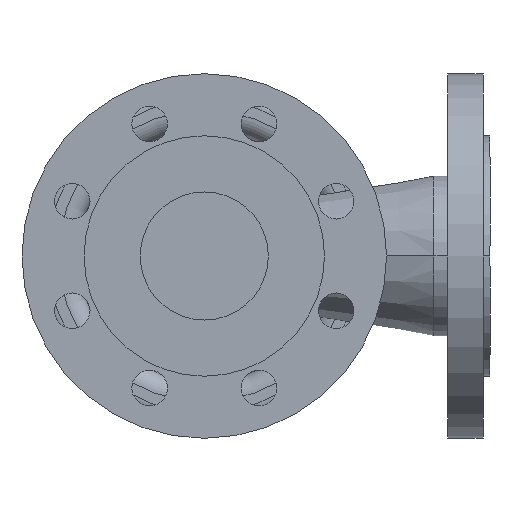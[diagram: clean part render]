
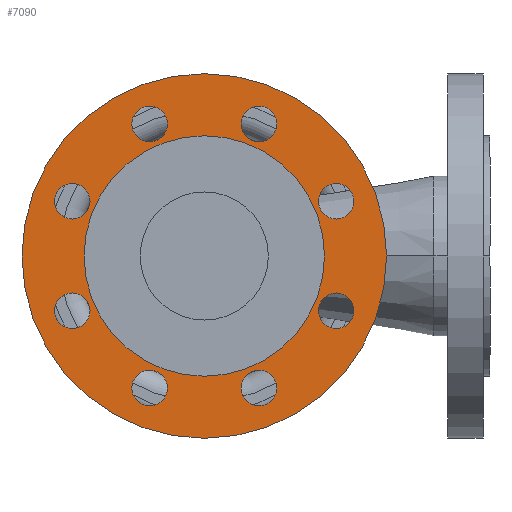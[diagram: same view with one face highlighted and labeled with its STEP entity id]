
A CAD part, front view. The second image highlights one B-rep face of the part: STEP entity #7090.
In plain terms, the highlighted planar face has unit normal (0, -1, 0).
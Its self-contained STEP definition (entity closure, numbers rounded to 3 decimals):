
#610=CARTESIAN_POINT('',(-61.,3.5,0.));
#620=VERTEX_POINT('',#610);
#780=CARTESIAN_POINT('',(61.,3.5,0.));
#790=VERTEX_POINT('',#780);
#820=CARTESIAN_POINT('',(0.,3.5,0.));
#830=DIRECTION('',(0.,-1.,0.));
#840=DIRECTION('',(-1.,0.,0.));
#850=AXIS2_PLACEMENT_3D('',#820,#830,#840);
#860=CIRCLE('',#850,61.);
#870=EDGE_CURVE('',#620,#790,#860,.T.);
#5640=CARTESIAN_POINT('',(0.,3.5,0.));
#5650=DIRECTION('',(0.,1.,0.));
#5660=DIRECTION('',(0.,0.,1.));
#5670=AXIS2_PLACEMENT_3D('',#5640,#5650,#5660);
#5680=PLANE('',#5670);
#5690=CARTESIAN_POINT('',(-66.981,3.5,27.745));
#5700=DIRECTION('',(0.,1.,0.));
#5710=DIRECTION('',(1.,0.,0.));
#5720=AXIS2_PLACEMENT_3D('',#5690,#5700,#5710);
#5730=CIRCLE('',#5720,9.);
#5740=CARTESIAN_POINT('',(-75.981,3.5,27.745));
#5750=VERTEX_POINT('',#5740);
#5760=CARTESIAN_POINT('',(-57.981,3.5,27.745));
#5770=VERTEX_POINT('',#5760);
#5780=EDGE_CURVE('',#5750,#5770,#5730,.T.);
#5790=ORIENTED_EDGE('',*,*,#5780,.T.);
#5800=EDGE_CURVE('',#5770,#5750,#5730,.T.);
#5810=ORIENTED_EDGE('',*,*,#5800,.T.);
#5820=EDGE_LOOP('',(#5810,#5790));
#5830=FACE_BOUND('',#5820,.T.);
#5840=CARTESIAN_POINT('',(-66.981,3.5,-27.745));
#5850=DIRECTION('',(0.,1.,0.));
#5860=DIRECTION('',(1.,0.,0.));
#5870=AXIS2_PLACEMENT_3D('',#5840,#5850,#5860);
#5880=CIRCLE('',#5870,9.);
#5890=CARTESIAN_POINT('',(-57.981,3.5,-27.745));
#5900=VERTEX_POINT('',#5890);
#5910=CARTESIAN_POINT('',(-75.981,3.5,-27.745));
#5920=VERTEX_POINT('',#5910);
#5930=EDGE_CURVE('',#5900,#5920,#5880,.T.);
#5940=ORIENTED_EDGE('',*,*,#5930,.T.);
#5950=EDGE_CURVE('',#5920,#5900,#5880,.T.);
#5960=ORIENTED_EDGE('',*,*,#5950,.T.);
#5970=EDGE_LOOP('',(#5960,#5940));
#5980=FACE_BOUND('',#5970,.T.);
#5990=CARTESIAN_POINT('',(-27.745,3.5,66.981));
#6000=DIRECTION('',(0.,1.,0.));
#6010=DIRECTION('',(1.,0.,0.));
#6020=AXIS2_PLACEMENT_3D('',#5990,#6000,#6010);
#6030=CIRCLE('',#6020,9.);
#6040=CARTESIAN_POINT('',(-36.745,3.5,66.981));
#6050=VERTEX_POINT('',#6040);
#6060=CARTESIAN_POINT('',(-18.745,3.5,66.981));
#6070=VERTEX_POINT('',#6060);
#6080=EDGE_CURVE('',#6050,#6070,#6030,.T.);
#6090=ORIENTED_EDGE('',*,*,#6080,.T.);
#6100=EDGE_CURVE('',#6070,#6050,#6030,.T.);
#6110=ORIENTED_EDGE('',*,*,#6100,.T.);
#6120=EDGE_LOOP('',(#6110,#6090));
#6130=FACE_BOUND('',#6120,.T.);
#6140=CARTESIAN_POINT('',(-27.745,3.5,-66.981));
#6150=DIRECTION('',(0.,1.,0.));
#6160=DIRECTION('',(1.,0.,0.));
#6170=AXIS2_PLACEMENT_3D('',#6140,#6150,#6160);
#6180=CIRCLE('',#6170,9.);
#6190=CARTESIAN_POINT('',(-18.745,3.5,-66.981));
#6200=VERTEX_POINT('',#6190);
#6210=CARTESIAN_POINT('',(-36.745,3.5,-66.981));
#6220=VERTEX_POINT('',#6210);
#6230=EDGE_CURVE('',#6200,#6220,#6180,.T.);
#6240=ORIENTED_EDGE('',*,*,#6230,.T.);
#6250=EDGE_CURVE('',#6220,#6200,#6180,.T.);
#6260=ORIENTED_EDGE('',*,*,#6250,.T.);
#6270=EDGE_LOOP('',(#6260,#6240));
#6280=FACE_BOUND('',#6270,.T.);
#6290=CARTESIAN_POINT('',(27.745,3.5,66.981));
#6300=DIRECTION('',(0.,1.,0.));
#6310=DIRECTION('',(1.,0.,0.));
#6320=AXIS2_PLACEMENT_3D('',#6290,#6300,#6310);
#6330=CIRCLE('',#6320,9.);
#6340=CARTESIAN_POINT('',(36.745,3.5,66.981));
#6350=VERTEX_POINT('',#6340);
#6360=CARTESIAN_POINT('',(18.745,3.5,66.981));
#6370=VERTEX_POINT('',#6360);
#6380=EDGE_CURVE('',#6350,#6370,#6330,.T.);
#6390=ORIENTED_EDGE('',*,*,#6380,.T.);
#6400=EDGE_CURVE('',#6370,#6350,#6330,.T.);
#6410=ORIENTED_EDGE('',*,*,#6400,.T.);
#6420=EDGE_LOOP('',(#6410,#6390));
#6430=FACE_BOUND('',#6420,.T.);
#6440=CARTESIAN_POINT('',(27.745,3.5,-66.981));
#6450=DIRECTION('',(0.,1.,0.));
#6460=DIRECTION('',(1.,0.,0.));
#6470=AXIS2_PLACEMENT_3D('',#6440,#6450,#6460);
#6480=CIRCLE('',#6470,9.);
#6490=CARTESIAN_POINT('',(36.745,3.5,-66.981));
#6500=VERTEX_POINT('',#6490);
#6510=CARTESIAN_POINT('',(18.745,3.5,-66.981));
#6520=VERTEX_POINT('',#6510);
#6530=EDGE_CURVE('',#6500,#6520,#6480,.T.);
#6540=ORIENTED_EDGE('',*,*,#6530,.T.);
#6550=EDGE_CURVE('',#6520,#6500,#6480,.T.);
#6560=ORIENTED_EDGE('',*,*,#6550,.T.);
#6570=EDGE_LOOP('',(#6560,#6540));
#6580=FACE_BOUND('',#6570,.T.);
#6590=CARTESIAN_POINT('',(66.981,3.5,27.745));
#6600=DIRECTION('',(0.,1.,0.));
#6610=DIRECTION('',(1.,0.,0.));
#6620=AXIS2_PLACEMENT_3D('',#6590,#6600,#6610);
#6630=CIRCLE('',#6620,9.);
#6640=CARTESIAN_POINT('',(75.981,3.5,27.745));
#6650=VERTEX_POINT('',#6640);
#6660=CARTESIAN_POINT('',(57.981,3.5,27.745));
#6670=VERTEX_POINT('',#6660);
#6680=EDGE_CURVE('',#6650,#6670,#6630,.T.);
#6690=ORIENTED_EDGE('',*,*,#6680,.T.);
#6700=EDGE_CURVE('',#6670,#6650,#6630,.T.);
#6710=ORIENTED_EDGE('',*,*,#6700,.T.);
#6720=EDGE_LOOP('',(#6710,#6690));
#6730=FACE_BOUND('',#6720,.T.);
#6740=CARTESIAN_POINT('',(66.981,3.5,-27.745));
#6750=DIRECTION('',(0.,1.,0.));
#6760=DIRECTION('',(1.,0.,0.));
#6770=AXIS2_PLACEMENT_3D('',#6740,#6750,#6760);
#6780=CIRCLE('',#6770,9.);
#6790=CARTESIAN_POINT('',(57.981,3.5,-27.745));
#6800=VERTEX_POINT('',#6790);
#6810=CARTESIAN_POINT('',(75.981,3.5,-27.745));
#6820=VERTEX_POINT('',#6810);
#6830=EDGE_CURVE('',#6800,#6820,#6780,.T.);
#6840=ORIENTED_EDGE('',*,*,#6830,.T.);
#6850=EDGE_CURVE('',#6820,#6800,#6780,.T.);
#6860=ORIENTED_EDGE('',*,*,#6850,.T.);
#6870=EDGE_LOOP('',(#6860,#6840));
#6880=FACE_BOUND('',#6870,.T.);
#6890=CARTESIAN_POINT('',(0.,3.5,0.));
#6900=DIRECTION('',(0.,1.,0.));
#6910=DIRECTION('',(1.,0.,0.));
#6920=AXIS2_PLACEMENT_3D('',#6890,#6900,#6910);
#6930=CIRCLE('',#6920,92.5);
#6940=CARTESIAN_POINT('',(92.5,3.5,0.));
#6950=VERTEX_POINT('',#6940);
#6960=CARTESIAN_POINT('',(-92.5,3.5,0.));
#6970=VERTEX_POINT('',#6960);
#6980=EDGE_CURVE('',#6950,#6970,#6930,.T.);
#6990=ORIENTED_EDGE('',*,*,#6980,.F.);
#7000=EDGE_CURVE('',#6970,#6950,#6930,.T.);
#7010=ORIENTED_EDGE('',*,*,#7000,.F.);
#7020=EDGE_LOOP('',(#7010,#6990));
#7030=FACE_OUTER_BOUND('',#7020,.T.);
#7040=EDGE_CURVE('',#790,#620,#860,.T.);
#7050=ORIENTED_EDGE('',*,*,#7040,.F.);
#7060=ORIENTED_EDGE('',*,*,#870,.F.);
#7070=EDGE_LOOP('',(#7060,#7050));
#7080=FACE_BOUND('',#7070,.T.);
#7090=ADVANCED_FACE('',(#5830,#5980,#6130,#6280,#6430,#6580,#6730,#6880,
#7030,#7080),#5680,.F.);
